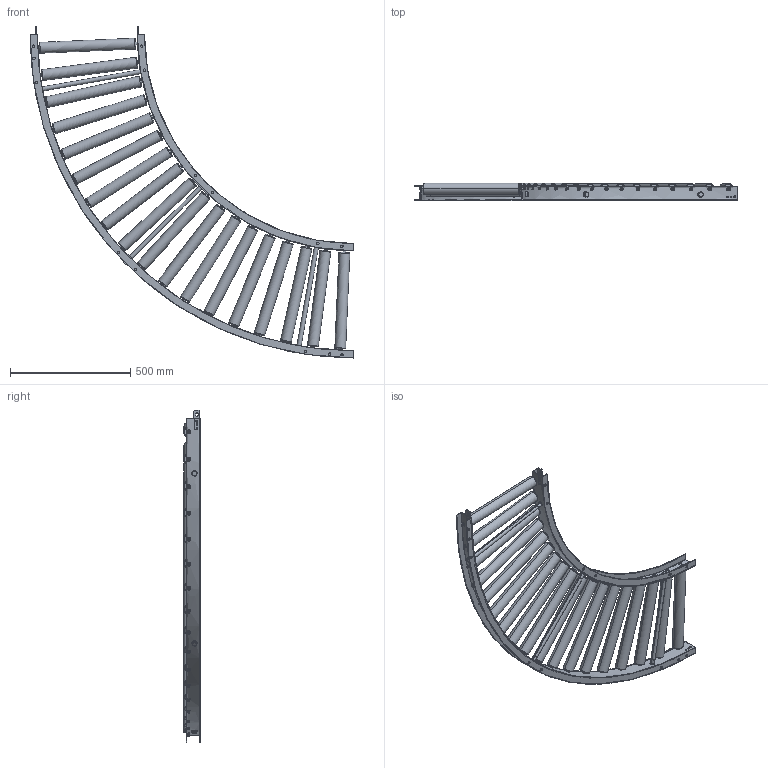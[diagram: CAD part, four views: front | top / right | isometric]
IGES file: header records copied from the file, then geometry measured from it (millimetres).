
Start section: SolidWorks IGES file using analytic representation for surfaces
Global section: file name: C:\Users\0656\Desktop\変換ツール\iges変換\RA-4515_C.igs; native system: SolidWorks 2023; preprocessor: SolidWorks 2023; author: 0656; date: 240315.112314; units: millimetre
Bounding box: 1345 x 70.5 x 1378.55 mm (x, y, z)
Surface area: 2552183.8 mm2 (no closed solid volume)
Topology: 0 solids, 0 shells, 852 faces, 18344 edges, 18344 vertices
Faces by surface type: revolution 466, bspline 386
